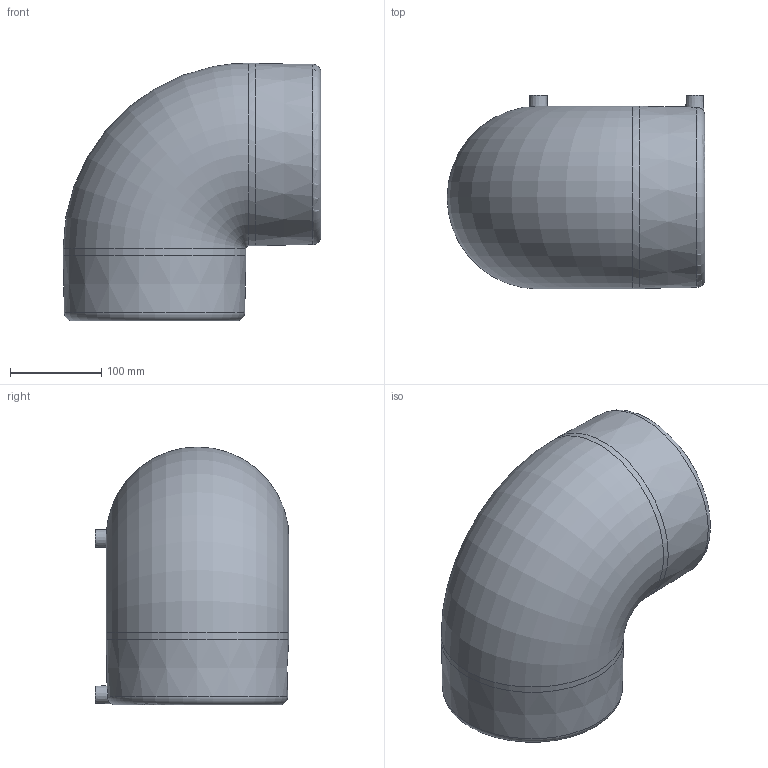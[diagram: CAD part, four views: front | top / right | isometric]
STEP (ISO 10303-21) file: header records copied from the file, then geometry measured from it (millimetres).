
FILE_DESCRIPTION(/* description */ ('Unknown'),/* implementation_level */ '2;1');
FILE_NAME(/* name */ 'GE9P160C',/* time_stamp */ '2021-02-11T16:28:51+01:00',/* author */ ('Unknown'),/* organization */ ('Unknown'),/* preprocessor_version */ 'ST-DEVELOPER v16.7',/* originating_system */ 'Solid Edge',/* authorisation */ 'Unknown');
FILE_SCHEMA (('AUTOMOTIVE_DESIGN {1 0 10303 214 3 1 1}'));
Length unit declared in the file: millimetre
Products named in the file (1): GE9P160C
Bounding box: 282 x 212 x 282 mm (x, y, z)
Volume: 3796343.4 mm3; surface area: 382012.2 mm2
Topology: 1 solids, 1 shells, 32 faces, 67 edges, 45 vertices
Faces by surface type: plane 12, cylinder 12, cone 4, torus 4
Full cylindrical faces by diameter (mm): 4 x2, 6 x2, 12 x2, 160 x2, 200 x2
Entity records: 840 total; most frequent: CARTESIAN_POINT 254, DIRECTION 120, ORIENTED_EDGE 78, AXIS2_PLACEMENT_3D 60, EDGE_LOOP 59, FACE_BOUND 59, EDGE_CURVE 39, VERTEX_POINT 34
